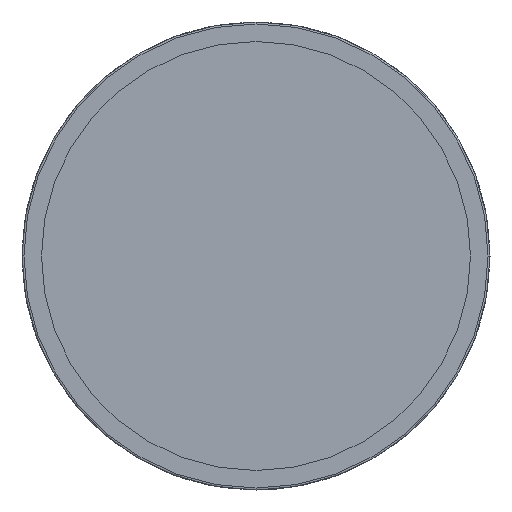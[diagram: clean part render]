
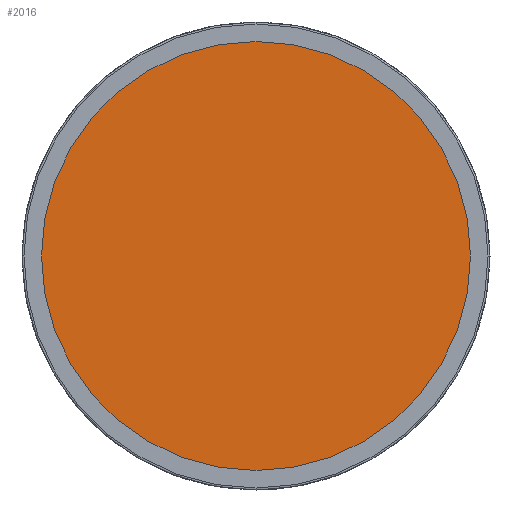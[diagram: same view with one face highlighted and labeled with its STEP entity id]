
A CAD part, left-side view. The second image highlights one B-rep face of the part: STEP entity #2016.
In plain terms, the highlighted planar face has unit normal (-1, 0, 0).
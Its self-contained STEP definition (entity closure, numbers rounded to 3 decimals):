
#1969=CARTESIAN_POINT('',(-525.136,-543.109,0.0));
#1970=VERTEX_POINT('',#1969);
#1977=CARTESIAN_POINT('',(-525.136,-433.109,0.0));
#1978=VERTEX_POINT('',#1977);
#1979=CARTESIAN_POINT('',(-525.136,-488.109,0.0));
#1980=DIRECTION('',(-1.0,0.0,0.0));
#1981=DIRECTION('',(0.0,-1.0,0.0));
#1982=AXIS2_PLACEMENT_3D('',#1979,#1980,#1981);
#1983=CIRCLE('',#1982,55.0);
#1984=EDGE_CURVE('',#1978,#1970,#1983,.T.);
#1986=CARTESIAN_POINT('',(-525.136,-488.109,0.0));
#1987=DIRECTION('',(-1.0,0.0,0.0));
#1988=DIRECTION('',(0.0,-1.0,0.0));
#1989=AXIS2_PLACEMENT_3D('',#1986,#1987,#1988);
#1990=CIRCLE('',#1989,55.0);
#1991=EDGE_CURVE('',#1970,#1978,#1990,.T.);
#2007=CARTESIAN_POINT('',(-525.136,-422.109,-66.));
#2008=DIRECTION('',(-1.0,0.0,0.0));
#2009=DIRECTION('',(0.0,-1.0,0.0));
#2010=AXIS2_PLACEMENT_3D('',#2007,#2008,#2009);
#2011=PLANE('',#2010);
#2012=ORIENTED_EDGE('',*,*,#1991,.T.);
#2013=ORIENTED_EDGE('',*,*,#1984,.T.);
#2014=EDGE_LOOP('',(#2012,#2013));
#2015=FACE_OUTER_BOUND('',#2014,.T.);
#2016=ADVANCED_FACE('',(#2015),#2011,.T.);
